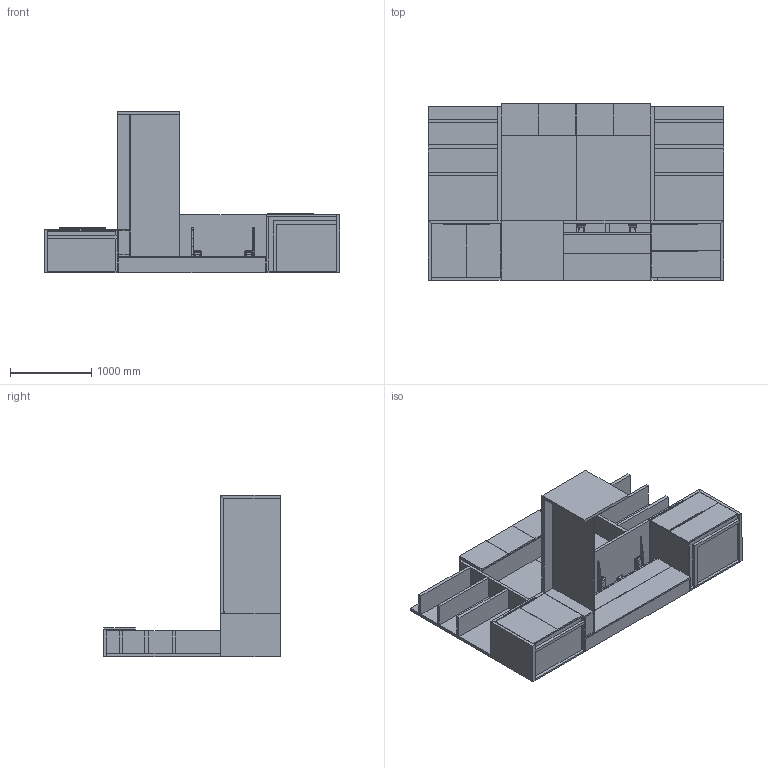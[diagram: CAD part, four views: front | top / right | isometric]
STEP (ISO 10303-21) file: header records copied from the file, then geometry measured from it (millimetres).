
FILE_DESCRIPTION(/* description */ ('','CAx-IF Rec.Pracs.---Representation and Presentation of Product Manufacturing Information (PMI)---4.0---2014-10-13'),/* implementation_level */ '2;1');
FILE_NAME(/* name */ 'PRIVATE OFFICE_FOUNDATION 5.stp',/* time_stamp */ '2024-12-08T10:41:51-05:00',/* author */ ('mbowman'),/* organization */ (''),/* preprocessor_version */ 'ST-DEVELOPER v19.2',/* originating_system */ 'Autodesk Inventor 2023',/* authorisation */ '');
FILE_SCHEMA (('AP242_MANAGED_MODEL_BASED_3D_ENGINEERING_MIM_LF { 1 0 10303 442 1 1 4 }'));
Products named in the file (21): FOUNDATION^PO5_OFFICE-SOLID ASSEMBLY; FOUNDATION^PO5_WIRE WALL-PARTS SOLID; FOUNDATION^PO5_WALL HUNG STORAGE-PARTS SOLID; FOUNDATION^PO5_WALL HUNG TACKBOARD-PARTS SOLID; FOUNDATION^PO5_CORNER SHELVES LT-PARTS SOLID; FOUNDATION^PO5_CORNER SHELVES RT-PARTS SOLID; FOUNDATION^PO5_PEDS FF RT-SOLID ASSEMBLY; FOUNDATION^PO5_PEDS FF RT-PARTS SOLID; JW PULL-22_25_STANDARD; FOUNDATION^PO5_PEDS HINGED DOOR LT-SOLID ASSEMBLY; FOUNDATION^PO5_PEDS HINGED DOOR LT-PARTS SOLID; JW PULL-11_125^STANDARD; FOUNDATION^PO5_DESK-PARTS SOLID; dl5nc_without_bracket_STEP; dl5nc_without_bracket_STEP_1; DL5NC_OP; STANDART_MOTORHUS1_DL5; FOUNDATION^PO5_WIRE WALL-WORKSURFACE; SS LIFT ANGLE_18_LT_OMT_LINAK (NEW); SS LIFT ANGLE_18_RT_OMT_LINAK (NEW); H-MP-TUBE1
Assembly tree (25 placements, depth 3):
  FOUNDATION^PO5_OFFICE-SOLID ASSEMBLY
    FOUNDATION^PO5_WIRE WALL-PARTS SOLID
    FOUNDATION^PO5_WALL HUNG STORAGE-PARTS SOLID
    FOUNDATION^PO5_WALL HUNG TACKBOARD-PARTS SOLID  x2
    FOUNDATION^PO5_CORNER SHELVES LT-PARTS SOLID
    FOUNDATION^PO5_CORNER SHELVES RT-PARTS SOLID
    FOUNDATION^PO5_PEDS FF RT-SOLID ASSEMBLY
      FOUNDATION^PO5_PEDS FF RT-PARTS SOLID
      JW PULL-22_25_STANDARD  x2
    FOUNDATION^PO5_PEDS HINGED DOOR LT-SOLID ASSEMBLY
      FOUNDATION^PO5_PEDS HINGED DOOR LT-PARTS SOLID
      JW PULL-11_125^STANDARD  x2
    FOUNDATION^PO5_DESK-PARTS SOLID
    dl5nc_without_bracket_STEP
      DL5NC_OP
      STANDART_MOTORHUS1_DL5
    dl5nc_without_bracket_STEP_1
      DL5NC_OP
      STANDART_MOTORHUS1_DL5
    FOUNDATION^PO5_WIRE WALL-WORKSURFACE
    SS LIFT ANGLE_18_LT_OMT_LINAK (NEW)
    SS LIFT ANGLE_18_RT_OMT_LINAK (NEW)
    H-MP-TUBE1
Bounding box: 3632.2 x 2171.7 x 1981.2 mm (x, y, z)
Volume: 624211291.9 mm3; surface area: 50015329.6 mm2
Topology: 64 solids, 104 shells, 2776 faces, 7098 edges, 4520 vertices
Faces by surface type: plane 1660, cylinder 898, torus 92, bspline 76, cone 26, sphere 24
Full cylindrical faces by diameter (mm): 4.6 x4, 4.762 x4, 4.826 x10, 5 x20, 5.3 x12, 5.5 x4, 6.35 x4, 8 x4, 8.202 x40, 38.1 x2
Entity records: 56238 total; most frequent: CARTESIAN_POINT 13782, DIRECTION 8377, ORIENTED_EDGE 7966, EDGE_CURVE 3983, AXIS2_PLACEMENT_3D 2842, LINE 2693, VECTOR 2693, VERTEX_POINT 2556
